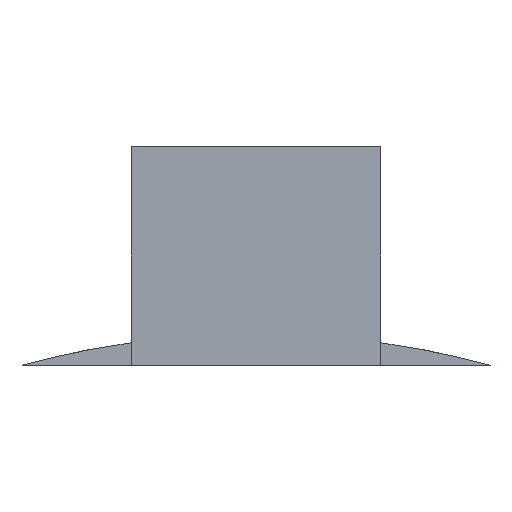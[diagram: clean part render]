
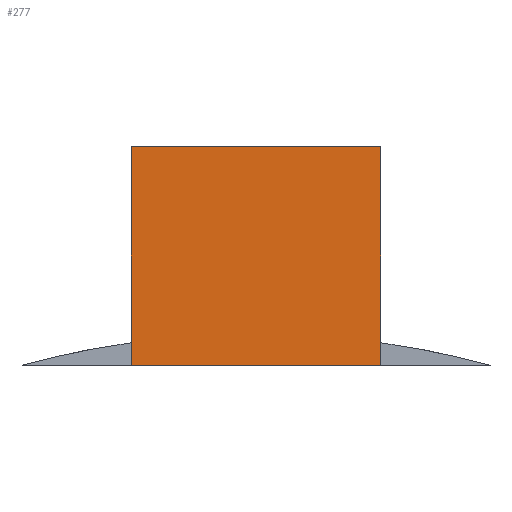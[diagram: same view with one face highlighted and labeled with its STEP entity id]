
A CAD part, left-side view. The second image highlights one B-rep face of the part: STEP entity #277.
In plain terms, the highlighted planar face has unit normal (-1, 0, 0).
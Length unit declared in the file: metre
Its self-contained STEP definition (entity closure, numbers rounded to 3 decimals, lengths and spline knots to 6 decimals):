
#18=PLANE('',#305);
#84=ORIENTED_EDGE('',*,*,#130,.F.);
#85=ORIENTED_EDGE('',*,*,#137,.F.);
#86=ORIENTED_EDGE('',*,*,#143,.F.);
#87=ORIENTED_EDGE('',*,*,#144,.F.);
#130=EDGE_CURVE('',#163,#164,#189,.T.);
#137=EDGE_CURVE('',#169,#163,#194,.T.);
#143=EDGE_CURVE('',#174,#169,#198,.F.);
#144=EDGE_CURVE('',#164,#174,#199,.T.);
#163=VERTEX_POINT('',#436);
#164=VERTEX_POINT('',#438);
#169=VERTEX_POINT('',#450);
#174=VERTEX_POINT('',#462);
#189=LINE('',#437,#218);
#194=LINE('',#451,#223);
#198=LINE('',#463,#227);
#199=LINE('',#465,#228);
#218=VECTOR('',#349,1.);
#223=VECTOR('',#360,1.);
#227=VECTOR('',#370,1.);
#228=VECTOR('',#373,1.);
#242=EDGE_LOOP('',(#84,#85,#86,#87));
#257=FACE_BOUND('',#242,.T.);
#277=ADVANCED_FACE('',(#257),#18,.F.);
#305=AXIS2_PLACEMENT_3D('',#464,#371,#372);
#349=DIRECTION('',(0.,0.,1.));
#360=DIRECTION('',(0.,1.,0.));
#370=DIRECTION('',(0.,0.,1.));
#371=DIRECTION('',(1.,0.,0.));
#372=DIRECTION('',(0.,1.,0.));
#373=DIRECTION('',(0.,-1.,0.));
#436=CARTESIAN_POINT('',(0.005848,-0.00215,-0.0284));
#437=CARTESIAN_POINT('',(0.005848,-0.00215,-0.0284));
#438=CARTESIAN_POINT('',(0.005848,-0.00215,-0.0277));
#450=CARTESIAN_POINT('',(0.005848,-0.00295,-0.0284));
#451=CARTESIAN_POINT('',(0.005848,-0.00295,-0.0284));
#462=CARTESIAN_POINT('',(0.005848,-0.00295,-0.0277));
#463=CARTESIAN_POINT('',(0.005848,-0.00295,-0.0284));
#464=CARTESIAN_POINT('',(0.005848,-0.00345,-0.0284));
#465=CARTESIAN_POINT('',(0.005848,-0.00215,-0.0277));
